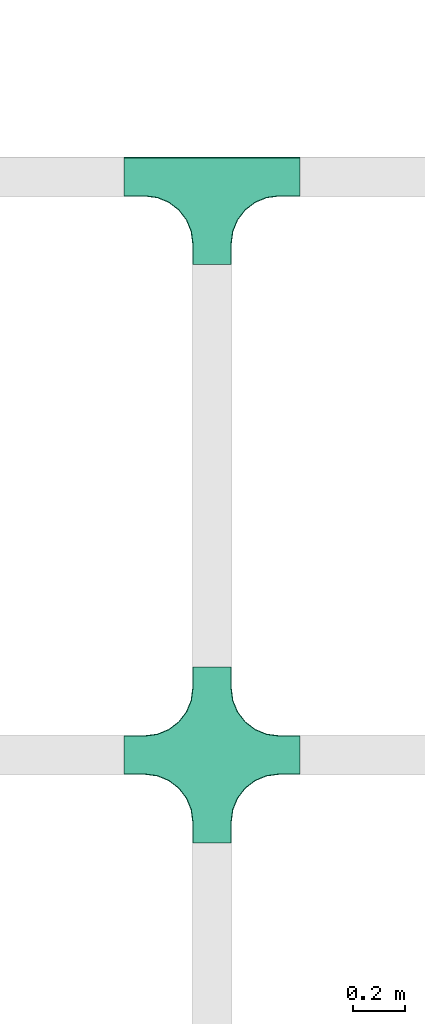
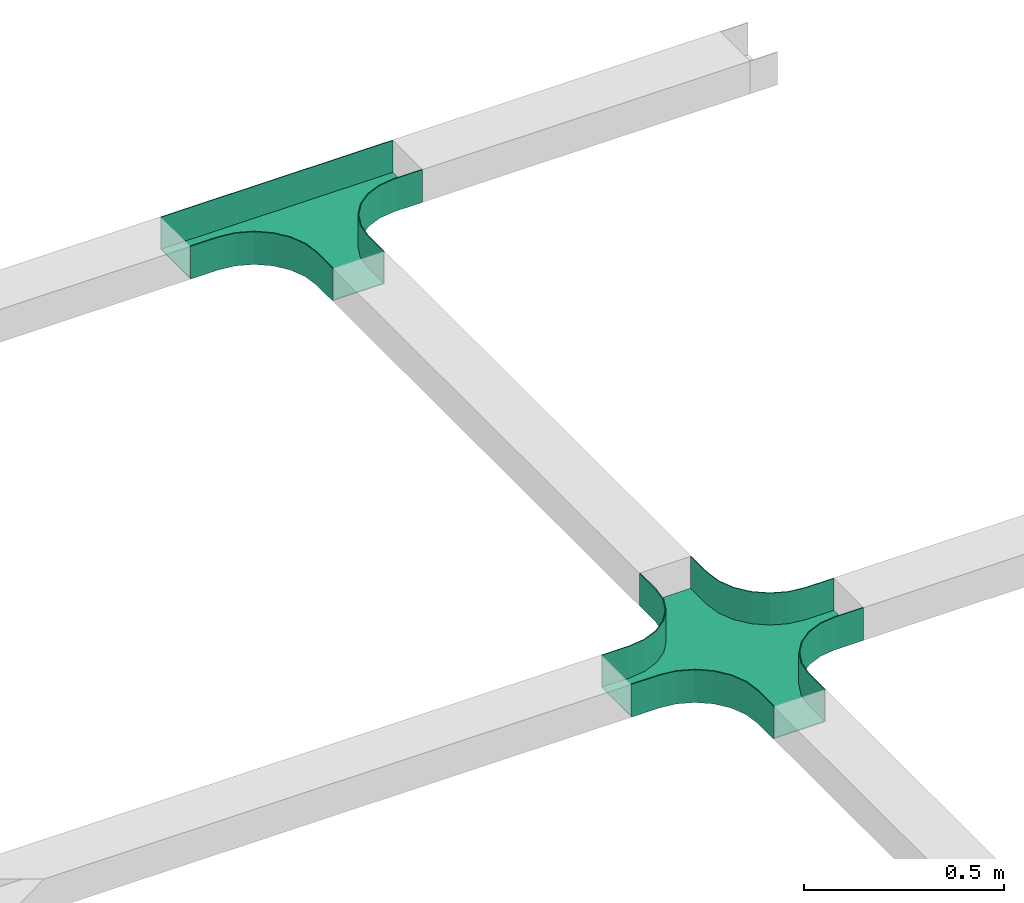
# One storey, part 45 of 197: 2 flow fittings.
"""IFC2X3 building model written with IfcOpenShell, lengths in metres."""

from ifc_helpers import new_model, entity, si_unit, converted_unit, direction, frame, origin, place, context, subcontext, project, spatial, faceted_brep, source, transform, mapped, material, type_object, type_shapes, element, save


model = new_model("IFC2X3")

# Units and contexts
model_context = context("Model", 3, precision=1e-05, world=origin(), true_north=direction((6.123031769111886e-17, 1.0)))
body_context = subcontext(model_context, "Body", "Model", "MODEL_VIEW")
ifc_project = project(units=[si_unit("LENGTHUNIT", "METRE"), converted_unit("PLANEANGLEUNIT", "DEGREE", entity("IfcPlaneAngleMeasure", 0.017453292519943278), si_unit("PLANEANGLEUNIT", "RADIAN"), dimensions=[0, 0, 0, 0, 0, 0, 0]), si_unit("AREAUNIT", "SQUARE_METRE")], contexts=[model_context])

# Site, building, storey
site_placement = place(None, origin())
site = spatial("IfcSite", under=ifc_project, at=site_placement, Name="Default", CompositionType="ELEMENT")
building_placement = place(site_placement, origin())
building = spatial("IfcBuilding", under=site, at=building_placement, CompositionType="ELEMENT")
storey_placement = place(building_placement, origin())
storey = spatial("IfcBuildingStorey", under=building, at=storey_placement, Name="Niveau 0", CompositionType="ELEMENT", Elevation=0.0)

# Flow fittings
ifc_material = material(Name="<Unnamed>")
cable_carrier_fitting_type_1 = type_object("IfcCableCarrierFittingType", Name="Chemin de câbles - Croix:CDC ENEDIS", PredefinedType="NOTDEFINED", material=ifc_material)
shared_shape_1 = source(origin(), body_context, "Body", "Brep", [
    faceted_brep([(-0.2549999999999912, -0.07246000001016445, 0.04999999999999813), (-0.3349999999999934, -0.07246000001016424, 0.04999999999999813), (-0.3349999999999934, -0.07500000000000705, 0.04999999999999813), (-0.254999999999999, -0.07500000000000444, 0.04999999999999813), (-0.20841257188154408, -0.0811333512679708, 0.04999999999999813), (-0.1649999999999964, -0.0991154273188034, 0.04999999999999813), (-0.12772077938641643, -0.12772077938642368, 0.04999999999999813), (-0.09911542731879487, -0.16500000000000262, 0.04999999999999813), (-0.08113335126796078, -0.20841257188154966, 0.04999999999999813), (-0.0749999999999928, -0.25500000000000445, 0.04999999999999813), (-0.07499999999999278, -0.33500000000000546, 0.04999999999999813), (-0.07246000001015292, -0.33500000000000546, 0.04999999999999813), (-0.0724600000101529, -0.2550000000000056, 0.04999999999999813), (-0.07867989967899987, -0.20775517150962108, 0.04999999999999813), (-0.09691572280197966, -0.16373000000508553, 0.04999999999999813), (-0.12592472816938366, -0.12592472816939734, 0.04999999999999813), (-0.16373000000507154, -0.09691572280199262, 0.04999999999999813), (-0.2077551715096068, -0.07867989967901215, 0.04999999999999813), (-0.0811333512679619, 0.20841257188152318, 0.04999999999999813), (-0.0991154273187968, 0.1649999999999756, 0.04999999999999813), (-0.12772077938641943, 0.1277207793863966, 0.04999999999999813), (-0.1650000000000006, 0.09911542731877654, 0.04999999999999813), (-0.20841257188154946, 0.08113335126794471, 0.04999999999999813), (-0.25500000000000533, 0.07499999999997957, 0.04999999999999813), (-0.3349999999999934, 0.07499999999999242, 0.04999999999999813), (-0.3349999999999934, 0.07246000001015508, 0.04999999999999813), (-0.255000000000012, 0.07246000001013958, 0.04999999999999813), (-0.2077551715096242, 0.07867989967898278, 0.04999999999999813), (-0.1637300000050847, 0.09691572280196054, 0.04999999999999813), (-0.12592472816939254, 0.12592472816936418, 0.04999999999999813), (-0.09691572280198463, 0.16373000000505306, 0.04999999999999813), (-0.078679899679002, 0.20775517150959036, 0.04999999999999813), (-0.07246000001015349, 0.25499999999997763, 0.04999999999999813), (-0.07246000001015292, 0.3349999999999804, 0.04999999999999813), (-0.07499999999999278, 0.3349999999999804, 0.04999999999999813), (-0.07499999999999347, 0.25499999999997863, 0.04999999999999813), (0.20841257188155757, -0.08113335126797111, 0.04999999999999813), (0.2550000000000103, -0.07500000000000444, 0.04999999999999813), (0.33500000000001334, -0.07500000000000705, 0.04999999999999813), (0.33500000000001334, -0.07246000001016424, 0.04999999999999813), (0.2550000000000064, -0.07246000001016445, 0.04999999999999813), (0.2077551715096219, -0.07867989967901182, 0.04999999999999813), (0.16373000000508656, -0.09691572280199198, 0.04999999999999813), (0.12592472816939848, -0.12592472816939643, 0.04999999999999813), (0.09691572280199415, -0.16373000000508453, 0.04999999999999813), (0.07867989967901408, -0.20775517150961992, 0.04999999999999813), (0.0724600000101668, -0.25500000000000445, 0.04999999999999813), (0.0724600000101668, -0.33500000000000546, 0.04999999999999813), (0.0750000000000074, -0.33500000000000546, 0.04999999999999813), (0.07500000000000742, -0.2550000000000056, 0.04999999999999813), (0.08113335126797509, -0.20841257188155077, 0.04999999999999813), (0.09911542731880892, -0.16500000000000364, 0.04999999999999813), (0.12772077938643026, -0.1277207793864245, 0.04999999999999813), (0.16500000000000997, -0.09911542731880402, 0.04999999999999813), (0.0750000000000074, 0.3349999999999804, 0.04999999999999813), (0.0724600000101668, 0.3349999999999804, 0.04999999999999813), (0.07246000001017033, 0.254999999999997, 0.04999999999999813), (0.0786798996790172, 0.207755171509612, 0.04999999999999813), (0.09691572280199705, 0.1637300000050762, 0.04999999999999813), (0.1259247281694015, 0.1259247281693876, 0.04999999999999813), (0.16373000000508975, 0.09691572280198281, 0.04999999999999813), (0.20775517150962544, 0.07867989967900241, 0.04999999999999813), (0.2550000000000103, 0.07246000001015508, 0.04999999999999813), (0.33500000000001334, 0.07246000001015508, 0.04999999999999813), (0.33500000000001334, 0.07499999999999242, 0.04999999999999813), (0.2550000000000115, 0.07499999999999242, 0.04999999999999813), (0.2084125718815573, 0.08113335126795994, 0.04999999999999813), (0.16500000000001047, 0.09911542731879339, 0.04999999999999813), (0.1277207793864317, 0.1277207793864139, 0.04999999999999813), (0.09911542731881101, 0.16499999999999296, 0.04999999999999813), (0.08113335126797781, 0.20841257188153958, 0.04999999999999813), (0.07500000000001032, 0.2549999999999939, 0.04999999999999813), (-0.08113335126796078, -0.20841257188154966, -0.05000000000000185), (-0.09911542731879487, -0.16500000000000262, -0.05000000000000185), (-0.12772077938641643, -0.12772077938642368, -0.05000000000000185), (-0.1649999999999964, -0.0991154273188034, -0.05000000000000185), (-0.20841257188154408, -0.0811333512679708, -0.05000000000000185), (-0.25499999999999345, -0.07500000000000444, -0.05000000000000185), (-0.3349999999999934, -0.07500000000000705, -0.05000000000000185), (-0.3349999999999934, 0.07499999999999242, -0.05000000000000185), (-0.2550000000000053, 0.07499999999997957, -0.05000000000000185), (-0.20841257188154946, 0.08113335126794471, -0.05000000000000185), (-0.1650000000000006, 0.09911542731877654, -0.05000000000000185), (-0.12772077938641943, 0.1277207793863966, -0.05000000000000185), (-0.0991154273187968, 0.1649999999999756, -0.05000000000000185), (-0.0811333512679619, 0.20841257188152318, -0.05000000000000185), (-0.07499999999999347, 0.2549999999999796, -0.05000000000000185), (-0.07499999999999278, 0.3349999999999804, -0.05000000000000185), (0.0750000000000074, 0.3349999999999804, -0.05000000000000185), (0.07500000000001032, 0.2549999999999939, -0.05000000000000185), (0.08113335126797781, 0.20841257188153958, -0.05000000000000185), (0.09911542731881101, 0.16499999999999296, -0.05000000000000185), (0.1277207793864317, 0.1277207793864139, -0.05000000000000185), (0.16500000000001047, 0.09911542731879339, -0.05000000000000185), (0.2084125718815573, 0.08113335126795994, -0.05000000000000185), (0.2550000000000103, 0.07499999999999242, -0.05000000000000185), (0.33500000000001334, 0.07499999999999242, -0.05000000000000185), (0.33500000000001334, -0.07500000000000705, -0.05000000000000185), (0.25500000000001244, -0.07500000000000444, -0.05000000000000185), (0.20841257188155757, -0.08113335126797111, -0.05000000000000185), (0.16500000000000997, -0.09911542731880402, -0.05000000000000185), (0.12772077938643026, -0.1277207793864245, -0.05000000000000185), (0.09911542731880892, -0.16500000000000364, -0.05000000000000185), (0.08113335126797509, -0.20841257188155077, -0.05000000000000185), (0.07500000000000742, -0.2550000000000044, -0.05000000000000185), (0.0750000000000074, -0.33500000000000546, -0.05000000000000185), (-0.07499999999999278, -0.33500000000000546, -0.05000000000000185), (-0.0749999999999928, -0.25500000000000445, -0.05000000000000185), (-0.0749999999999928, -0.25500000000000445, -0.04746000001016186), (-0.07499999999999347, 0.25499999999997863, -0.047460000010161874), (0.07246000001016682, -0.33500000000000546, -0.04746000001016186), (-0.07246000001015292, -0.33500000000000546, -0.047460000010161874), (-0.07246000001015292, -0.2550000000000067, -0.047460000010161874), (-0.07246000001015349, 0.25499999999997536, -0.04746000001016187), (-0.07246000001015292, 0.3349999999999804, -0.04746000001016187), (-0.078679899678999, -0.2077551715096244, -0.04746000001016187), (-0.09691572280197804, -0.1637300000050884, -0.04746000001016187), (-0.12592472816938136, -0.12592472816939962, -0.04746000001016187), (-0.16373000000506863, -0.09691572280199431, -0.04746000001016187), (-0.20775517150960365, -0.07867989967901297, -0.04746000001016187), (-0.2549999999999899, -0.07246000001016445, -0.04746000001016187), (-0.3349999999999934, -0.07246000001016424, -0.047460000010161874), (0.33500000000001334, -0.07246000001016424, -0.047460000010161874), (0.2550000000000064, -0.07246000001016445, -0.047460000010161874), (-0.3349999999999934, 0.07246000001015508, -0.047460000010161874), (-0.25500000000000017, -0.07500000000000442, -0.047460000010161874), (0.25500000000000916, -0.07500000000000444, -0.04746000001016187), (0.07500000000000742, -0.2550000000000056, -0.04746000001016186), (0.33500000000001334, 0.07246000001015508, -0.04746000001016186), (0.20775517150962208, -0.07867989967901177, -0.04746000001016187), (0.16373000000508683, -0.0969157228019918, -0.04746000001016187), (0.12592472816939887, -0.125924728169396, -0.04746000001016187), (0.09691572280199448, -0.16373000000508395, -0.04746000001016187), (0.07867989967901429, -0.20775517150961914, -0.04746000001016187), (0.07246000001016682, -0.2550000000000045, -0.04746000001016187), (0.07246000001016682, 0.3349999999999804, -0.04746000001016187), (0.07246000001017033, 0.2549999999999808, -0.04746000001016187), (0.07500000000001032, 0.2549999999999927, -0.04746000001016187), (-0.07867989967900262, 0.2077551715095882, -0.04746000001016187), (-0.09691572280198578, 0.16373000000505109, -0.04746000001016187), (-0.12592472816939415, 0.12592472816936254, -0.04746000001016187), (-0.16373000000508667, 0.09691572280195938, -0.04746000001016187), (-0.2077551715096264, 0.07867989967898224, -0.04746000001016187), (-0.2550000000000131, 0.07246000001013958, -0.04746000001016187), (0.255000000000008, 0.07246000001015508, -0.04746000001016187), (0.20775517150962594, 0.07867989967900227, -0.04746000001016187), (0.16373000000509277, 0.09691572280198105, -0.04746000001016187), (0.1259247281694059, 0.12592472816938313, -0.04746000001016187), (0.09691572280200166, 0.1637300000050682, -0.04746000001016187), (0.07867989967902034, 0.20775517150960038, -0.04746000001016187), (-0.2550000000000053, 0.07499999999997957, -0.04746000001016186), (0.2550000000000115, 0.07499999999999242, -0.047460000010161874)], [[[0, 1, 2, 3, 4, 5, 6, 7, 8, 9, 10, 11, 12, 13, 14, 15, 16, 17]], [[18, 19, 20, 21, 22, 23, 24, 25, 26, 27, 28, 29, 30, 31, 32, 33, 34, 35]], [[36, 37, 38, 39, 40, 41, 42, 43, 44, 45, 46, 47, 48, 49, 50, 51, 52, 53]], [[54, 55, 56, 57, 58, 59, 60, 61, 62, 63, 64, 65, 66, 67, 68, 69, 70, 71]], [[72, 73, 74, 75, 76, 77, 78, 79, 80, 81, 82, 83, 84, 85, 86, 87, 88, 89, 90, 91, 92, 93, 94, 95, 96, 97, 98, 99, 100, 101, 102, 103, 104, 105, 106, 107]], [[10, 9, 108, 107, 106]], [[35, 34, 87, 86, 109]], [[11, 10, 106, 105, 48, 47, 110, 111]], [[12, 11, 111, 112]], [[33, 32, 113, 114]], [[13, 115, 116, 14]], [[14, 116, 117, 15]], [[112, 115, 13, 12]], [[16, 118, 119, 17]], [[17, 119, 120, 0]], [[15, 117, 118, 16]], [[1, 0, 120, 121]], [[40, 39, 122, 123]], [[25, 24, 79, 78, 2, 1, 121, 124]], [[3, 2, 78, 77, 125]], [[38, 37, 126, 98, 97]], [[4, 3, 125, 77, 76]], [[5, 4, 76, 75]], [[75, 74, 6, 5]], [[7, 6, 74, 73]], [[8, 7, 73, 72]], [[9, 8, 72, 107, 108]], [[50, 49, 127, 104, 103]], [[103, 102, 51, 50]], [[51, 102, 101, 52]], [[36, 53, 100, 99]], [[36, 99, 98, 126, 37]], [[100, 53, 52, 101]], [[39, 38, 97, 96, 64, 63, 128, 122]], [[123, 129, 41, 40]], [[130, 42, 41, 129]], [[42, 130, 131, 43]], [[44, 132, 133, 45]], [[45, 133, 134, 46]], [[43, 131, 132, 44]], [[47, 46, 134, 110]], [[56, 55, 135, 136]], [[49, 48, 105, 104, 127]], [[54, 71, 137, 89, 88]], [[138, 139, 140, 141, 142, 143, 124, 121, 120, 119, 118, 117, 116, 115, 112, 111, 110, 134, 133, 132, 131, 130, 129, 123, 122, 128, 144, 145, 146, 147, 148, 149, 136, 135, 114, 113]], [[24, 23, 150, 80, 79]], [[65, 64, 96, 95, 151]], [[26, 25, 124, 143]], [[63, 62, 144, 128]], [[27, 142, 141, 28]], [[28, 141, 140, 29]], [[143, 142, 27, 26]], [[30, 139, 138, 31]], [[31, 138, 113, 32]], [[29, 140, 139, 30]], [[55, 54, 88, 87, 34, 33, 114, 135]], [[18, 35, 109, 86, 85]], [[83, 20, 19, 84]], [[19, 18, 85, 84]], [[22, 21, 82, 81]], [[22, 81, 80, 150, 23]], [[82, 21, 20, 83]], [[148, 147, 59, 58]], [[56, 136, 149, 57]], [[57, 149, 148, 58]], [[60, 146, 145, 61]], [[61, 145, 144, 62]], [[59, 147, 146, 60]], [[151, 95, 94, 66, 65]], [[93, 92, 68, 67]], [[93, 67, 66, 94]], [[70, 69, 91, 90]], [[70, 90, 89, 137, 71]], [[91, 69, 68, 92]]]),
])
type_shapes(cable_carrier_fitting_type_1, [shared_shape_1])
flow_fitting_1_placement = place(storey_placement, frame((-487.9629800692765, 151.61891437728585, 2.7500000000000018), z_axis=(0.0, 0.0, 1.0), x_axis=(-1.0, 0.0, 0.0)))
element("IfcFlowFitting", 1, at=flow_fitting_1_placement, inside=storey, type_object=cable_carrier_fitting_type_1, material=ifc_material, Name="Chemin de câbles - Croix:CDC ENEDIS", ObjectType="Chemin de câbles - Croix:CDC ENEDIS", context=body_context, shape_type="MappedRepresentation", body=[
    mapped(shared_shape_1, transform((0.0, 0.0, 0.0), scale=1.0)),
])
cable_carrier_fitting_type_2 = type_object("IfcCableCarrierFittingType", Name="Chemin de câbles - Té:CDC ENEDIS", PredefinedType="NOTDEFINED", material=ifc_material)
shared_shape_2 = source(origin(), body_context, "Body", "Brep", [
    faceted_brep([(0.2084125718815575, -0.08113335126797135, 0.04999999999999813), (0.25500000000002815, -0.07500000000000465, 0.04999999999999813), (0.33500000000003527, -0.07500000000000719, 0.04999999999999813), (0.33500000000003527, -0.07246000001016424, 0.04999999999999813), (0.25500000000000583, -0.07246000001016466, 0.04999999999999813), (0.20775517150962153, -0.07867989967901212, 0.04999999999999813), (0.16373000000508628, -0.09691572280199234, 0.04999999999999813), (0.12592472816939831, -0.12592472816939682, 0.04999999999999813), (0.09691572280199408, -0.16373000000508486, 0.04999999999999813), (0.07867989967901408, -0.2077551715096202, 0.04999999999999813), (0.0724600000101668, -0.2550000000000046, 0.04999999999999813), (0.0724600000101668, -0.3350000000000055, 0.04999999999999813), (0.07500000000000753, -0.3350000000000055, 0.04999999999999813), (0.07500000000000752, -0.2550000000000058, 0.04999999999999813), (0.08113335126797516, -0.20841257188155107, 0.04999999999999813), (0.09911542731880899, -0.16500000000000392, 0.04999999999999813), (0.12772077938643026, -0.12772077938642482, 0.04999999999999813), (0.16500000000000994, -0.09911542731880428, 0.04999999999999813), (-0.25499999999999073, -0.07246000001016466, 0.04999999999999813), (-0.3349999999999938, -0.07246000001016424, 0.04999999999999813), (-0.3349999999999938, -0.07500000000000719, 0.04999999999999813), (-0.25499999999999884, -0.07500000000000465, 0.04999999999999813), (-0.20841257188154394, -0.08113335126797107, 0.04999999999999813), (-0.16499999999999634, -0.09911542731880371, 0.04999999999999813), (-0.12772077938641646, -0.12772077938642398, 0.04999999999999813), (-0.09911542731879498, -0.16500000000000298, 0.04999999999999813), (-0.08113335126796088, -0.20841257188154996, 0.04999999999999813), (-0.07499999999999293, -0.2550000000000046, 0.04999999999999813), (-0.07499999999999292, -0.3350000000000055, 0.04999999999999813), (-0.07246000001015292, -0.3350000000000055, 0.04999999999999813), (-0.0724600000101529, -0.25500000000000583, 0.04999999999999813), (-0.07867989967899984, -0.20775517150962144, 0.04999999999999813), (-0.09691572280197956, -0.1637300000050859, 0.04999999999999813), (-0.12592472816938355, -0.12592472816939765, 0.04999999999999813), (-0.16373000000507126, -0.096915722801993, 0.04999999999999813), (-0.20775517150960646, -0.07867989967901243, 0.04999999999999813), (0.33500000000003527, 0.0749999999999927, 0.04999999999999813), (-0.3349999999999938, 0.0749999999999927, 0.04999999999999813), (-0.33499999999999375, 0.0724600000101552, 0.04999999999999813), (0.33500000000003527, 0.0724600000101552, 0.04999999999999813), (-0.07499999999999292, -0.3350000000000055, -0.05000000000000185), (-0.07499999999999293, -0.2550000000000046, -0.05000000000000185), (-0.08113335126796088, -0.20841257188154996, -0.05000000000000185), (-0.09911542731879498, -0.16500000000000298, -0.05000000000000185), (-0.12772077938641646, -0.12772077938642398, -0.05000000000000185), (-0.16499999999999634, -0.09911542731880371, -0.05000000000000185), (-0.20841257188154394, -0.08113335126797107, -0.05000000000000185), (-0.2549999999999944, -0.07500000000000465, -0.05000000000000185), (-0.3349999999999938, -0.07500000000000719, -0.05000000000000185), (-0.3349999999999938, 0.0749999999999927, -0.05000000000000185), (0.33500000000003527, 0.0749999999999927, -0.05000000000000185), (0.33500000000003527, -0.07500000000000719, -0.05000000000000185), (0.25500000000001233, -0.07500000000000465, -0.05000000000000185), (0.2084125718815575, -0.08113335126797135, -0.05000000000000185), (0.16500000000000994, -0.09911542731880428, -0.05000000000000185), (0.12772077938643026, -0.12772077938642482, -0.05000000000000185), (0.09911542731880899, -0.16500000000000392, -0.05000000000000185), (0.08113335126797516, -0.20841257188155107, -0.05000000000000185), (0.07500000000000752, -0.2550000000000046, -0.05000000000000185), (0.07500000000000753, -0.3350000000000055, -0.05000000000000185), (-0.07499999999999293, -0.2550000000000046, -0.04746000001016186), (0.07246000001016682, -0.3350000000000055, -0.04746000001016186), (-0.07246000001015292, -0.3350000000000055, -0.047460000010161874), (-0.07246000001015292, -0.25500000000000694, -0.047460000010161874), (-0.07867989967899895, -0.20775517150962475, -0.04746000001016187), (-0.09691572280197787, -0.16373000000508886, -0.04746000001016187), (-0.12592472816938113, -0.12592472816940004, -0.04746000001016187), (-0.16373000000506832, -0.09691572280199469, -0.04746000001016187), (-0.20775517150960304, -0.07867989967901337, -0.04746000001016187), (-0.25499999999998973, -0.07246000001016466, -0.04746000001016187), (-0.3349999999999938, -0.07246000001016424, -0.047460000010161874), (0.33500000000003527, -0.07246000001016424, -0.047460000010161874), (0.25500000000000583, -0.07246000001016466, -0.047460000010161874), (-0.3349999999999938, 0.0724600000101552, -0.047460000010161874), (-0.255, -0.07500000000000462, -0.047460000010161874), (0.255000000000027, -0.07500000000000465, -0.04746000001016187), (0.07500000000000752, -0.2550000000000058, -0.04746000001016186), (0.33500000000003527, 0.0724600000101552, -0.04746000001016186), (0.2077551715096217, -0.07867989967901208, -0.04746000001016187), (0.16373000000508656, -0.09691572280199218, -0.04746000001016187), (0.12592472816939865, -0.12592472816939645, -0.04746000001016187), (0.09691572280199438, -0.1637300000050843, -0.04746000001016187), (0.07867989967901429, -0.20775517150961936, -0.04746000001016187), (0.07246000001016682, -0.2550000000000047, -0.04746000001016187)], [[[0, 1, 2, 3, 4, 5, 6, 7, 8, 9, 10, 11, 12, 13, 14, 15, 16, 17]], [[18, 19, 20, 21, 22, 23, 24, 25, 26, 27, 28, 29, 30, 31, 32, 33, 34, 35]], [[36, 37, 38, 39]], [[40, 41, 42, 43, 44, 45, 46, 47, 48, 49, 50, 51, 52, 53, 54, 55, 56, 57, 58, 59]], [[28, 27, 60, 41, 40]], [[29, 28, 40, 59, 12, 11, 61, 62]], [[30, 29, 62, 63]], [[31, 64, 65, 32]], [[32, 65, 66, 33]], [[63, 64, 31, 30]], [[34, 67, 68, 35]], [[35, 68, 69, 18]], [[33, 66, 67, 34]], [[19, 18, 69, 70]], [[4, 3, 71, 72]], [[38, 37, 49, 48, 20, 19, 70, 73]], [[21, 20, 48, 47, 74]], [[2, 1, 75, 52, 51]], [[22, 21, 74, 47, 46]], [[23, 22, 46, 45]], [[45, 44, 24, 23]], [[25, 24, 44, 43]], [[26, 25, 43, 42]], [[27, 26, 42, 41, 60]], [[14, 13, 76, 58, 57]], [[57, 56, 15, 14]], [[15, 56, 55, 16]], [[0, 17, 54, 53]], [[0, 53, 52, 75, 1]], [[54, 17, 16, 55]], [[3, 2, 51, 50, 36, 39, 77, 71]], [[72, 78, 5, 4]], [[79, 6, 5, 78]], [[6, 79, 80, 7]], [[8, 81, 82, 9]], [[9, 82, 83, 10]], [[7, 80, 81, 8]], [[11, 10, 83, 61]], [[13, 12, 59, 58, 76]], [[37, 36, 50, 49]], [[39, 38, 73, 77]], [[73, 70, 69, 68, 67, 66, 65, 64, 63, 62, 61, 83, 82, 81, 80, 79, 78, 72, 71, 77]]]),
])
type_shapes(cable_carrier_fitting_type_2, [shared_shape_2])
flow_fitting_2_placement = place(storey_placement, frame((-487.9629800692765, 153.82491437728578, 2.75)))
element("IfcFlowFitting", 2, at=flow_fitting_2_placement, inside=storey, type_object=cable_carrier_fitting_type_2, material=ifc_material, Name="Chemin de câbles - Té:CDC ENEDIS", ObjectType="Chemin de câbles - Té:CDC ENEDIS", context=body_context, shape_type="MappedRepresentation", body=[
    mapped(shared_shape_2, transform((0.0, 0.0, 0.0), scale=1.0)),
])

save(model, "model.ifc")
